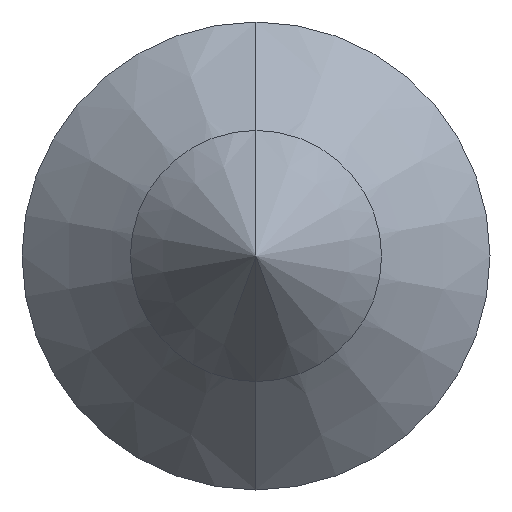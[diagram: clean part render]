
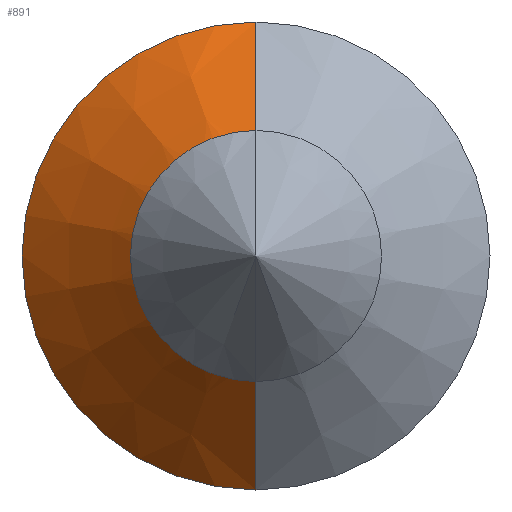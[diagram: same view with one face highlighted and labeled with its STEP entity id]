
A CAD part, left-side view. The second image highlights one B-rep face of the part: STEP entity #891.
In plain terms, the highlighted conical face has half-angle 45 degrees and reference radius 2.05 mm.
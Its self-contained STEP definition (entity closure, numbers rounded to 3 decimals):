
#56 = VERTEX_POINT ( 'NONE', #922 ) ;
#70 = VECTOR ( 'NONE', #1210, 1000. ) ;
#122 = CARTESIAN_POINT ( 'NONE',  ( -1.189, 0., 0.9 ) ) ;
#132 = AXIS2_PLACEMENT_3D ( 'NONE', #1393, #1391, #1388 ) ;
#136 = DIRECTION ( 'NONE',  ( 0., 0., -1. ) ) ;
#137 = DIRECTION ( 'NONE',  ( 1., 0., 0. ) ) ;
#144 = CARTESIAN_POINT ( 'NONE',  ( -1.189, 0., 0. ) ) ;
#213 = DIRECTION ( 'NONE',  ( 0.707, 0., 0.707 ) ) ;
#225 = CARTESIAN_POINT ( 'NONE',  ( -0.039, 0., 2.05 ) ) ;
#239 = VERTEX_POINT ( 'NONE', #122 ) ;
#264 = VERTEX_POINT ( 'NONE', #725 ) ;
#373 = VERTEX_POINT ( 'NONE', #645 ) ;
#452 = AXIS2_PLACEMENT_3D ( 'NONE', #1107, #1102, #1112 ) ;
#547 = LINE ( 'NONE', #225, #1106 ) ;
#580 = AXIS2_PLACEMENT_3D ( 'NONE', #144, #137, #136 ) ;
#609 = ORIENTED_EDGE ( 'NONE', *, *, #1411, .T. ) ;
#624 = LINE ( 'NONE', #1198, #70 ) ;
#645 = CARTESIAN_POINT ( 'NONE',  ( -1.189, 0., -0.9 ) ) ;
#678 = EDGE_CURVE ( 'NONE', #56, #264, #1087, .T. ) ;
#725 = CARTESIAN_POINT ( 'NONE',  ( -0.039, 0., 2.05 ) ) ;
#825 = EDGE_CURVE ( 'NONE', #373, #56, #624, .T. ) ;
#860 = EDGE_LOOP ( 'NONE', ( #609, #912, #1454, #905 ) ) ;
#891 = ADVANCED_FACE ( 'NONE', ( #1225 ), #1385, .T. ) ;
#905 = ORIENTED_EDGE ( 'NONE', *, *, #825, .F. ) ;
#912 = ORIENTED_EDGE ( 'NONE', *, *, #1386, .T. ) ;
#922 = CARTESIAN_POINT ( 'NONE',  ( -0.039, 0., -2.05 ) ) ;
#996 = CIRCLE ( 'NONE', #580, 0.9 ) ;
#1087 = CIRCLE ( 'NONE', #132, 2.05 ) ;
#1102 = DIRECTION ( 'NONE',  ( 1., 0., 0. ) ) ;
#1106 = VECTOR ( 'NONE', #213, 1000. ) ;
#1107 = CARTESIAN_POINT ( 'NONE',  ( -0.039, 0., 0. ) ) ;
#1112 = DIRECTION ( 'NONE',  ( 0., 0., -1. ) ) ;
#1198 = CARTESIAN_POINT ( 'NONE',  ( -0.039, 0., -2.05 ) ) ;
#1210 = DIRECTION ( 'NONE',  ( 0.707, 0., -0.707 ) ) ;
#1225 = FACE_OUTER_BOUND ( 'NONE', #860, .T. ) ;
#1385 = CONICAL_SURFACE ( 'NONE', #452, 2.05, 0.785 ) ;
#1386 = EDGE_CURVE ( 'NONE', #239, #264, #547, .T. ) ;
#1388 = DIRECTION ( 'NONE',  ( 0., 0., -1. ) ) ;
#1391 = DIRECTION ( 'NONE',  ( 1., 0., 0. ) ) ;
#1393 = CARTESIAN_POINT ( 'NONE',  ( -0.039, 0., 0. ) ) ;
#1411 = EDGE_CURVE ( 'NONE', #373, #239, #996, .T. ) ;
#1454 = ORIENTED_EDGE ( 'NONE', *, *, #678, .F. ) ;
